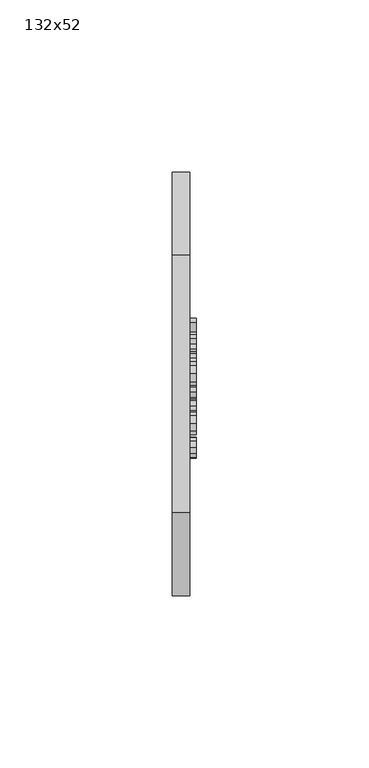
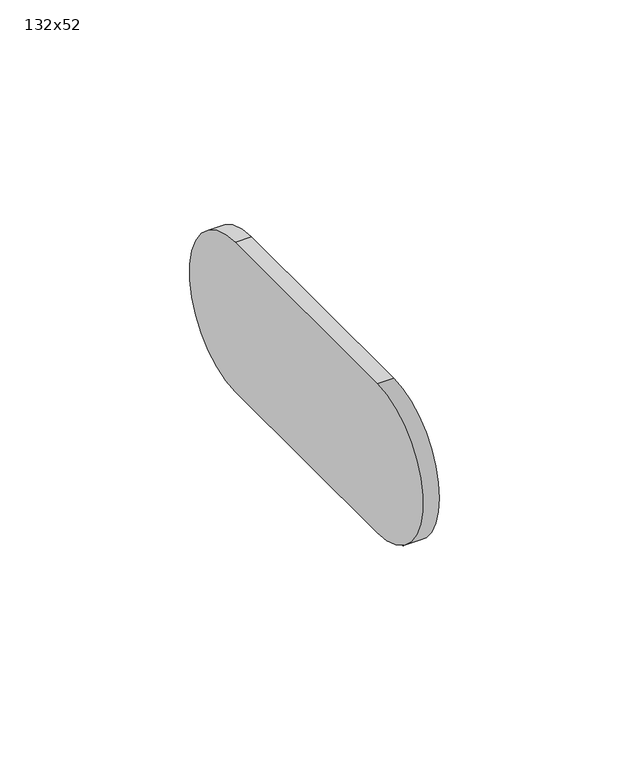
"""IFC4 building model written with IfcOpenShell, lengths in millimetres: duct fitting geometry, NLRS_57_DUF_UN_dummy cap oval_M&G : 132x52."""

import ifcopenshell
import ifcopenshell.guid

model = None  # the IFC model being written
_history = None  # IfcOwnerHistory: only IFC2X3 demands one
_inside = {}  # id of a spatial element -> (the spatial element, [elements in it])
_under = {}  # id of a project, library or spatial element -> (it, [spatial elements below it])
_declared = {}  # id of a project -> (the project, [libraries it declares])
_typed = {}  # id of a type object -> (the type object, [elements of that type])
_made_of = {}  # id of a material, layer set ... -> (it, [elements and type objects made of it])


def new_model(schema):
    """Start an empty IFC model of exactly this schema.

    Asked for "IFC4X3", IfcOpenShell would pick the latest addendum, in which some entities
    have other attributes; the version numbers below select the first issue.
    IFC2X3 requires an IfcOwnerHistory on every rooted entity: one is made here for all.
    """
    global model, _history
    if schema == "IFC4X3":
        model = ifcopenshell.file(schema_version=(4, 3, 0, 0))
    else:
        model = ifcopenshell.file(schema=schema)
    _inside.clear()
    _under.clear()
    _declared.clear()
    _typed.clear()
    _made_of.clear()
    _history = None
    if model.schema == "IFC2X3":
        org = make("IfcOrganization", Name="unknown")
        user = make(
            "IfcPersonAndOrganization",
            ThePerson=make("IfcPerson", FamilyName="unknown"),
            TheOrganization=org,
        )
        app = make(
            "IfcApplication",
            ApplicationDeveloper=org,
            Version="unknown",
            ApplicationFullName="unknown",
            ApplicationIdentifier="unknown",
        )
        _history = make(
            "IfcOwnerHistory",
            OwningUser=user,
            OwningApplication=app,
            ChangeAction="ADDED",
            CreationDate=0,
        )
    return model


def make(cls, **values):
    """One entity of the class cls with the attributes given. An attribute that is None is left unset."""
    return model.create_entity(
        cls, **{name: value for name, value in values.items() if value is not None}
    )


def rooted(cls, **values):
    """An entity with a GlobalId (a new one), such as an element, a storey or a relation."""
    return make(cls, GlobalId=ifcopenshell.guid.new(), OwnerHistory=_history, **values)


def si_unit(unit_type, name, prefix=None):
    """IfcSIUnit, for example si_unit("LENGTHUNIT", "METRE", prefix="MILLI")."""
    return make("IfcSIUnit", UnitType=unit_type, Prefix=prefix, Name=name)


def assignment(units):
    """IfcUnitAssignment: the units of a project."""
    return None if units is None else make("IfcUnitAssignment", Units=units)


def point(xyz):
    """IfcCartesianPoint."""
    return None if xyz is None else make("IfcCartesianPoint", Coordinates=xyz)


def direction(xyz):
    """IfcDirection."""
    return None if xyz is None else make("IfcDirection", DirectionRatios=xyz)


def frame(location, z_axis=None, x_axis=None):
    """IfcAxis2Placement3D, a coordinate frame: its origin and axes. An axis left out is left unset."""
    return make(
        "IfcAxis2Placement3D",
        Location=point(location),
        Axis=direction(z_axis),
        RefDirection=direction(x_axis),
    )


def frame_2d(location, x_axis=None):
    """IfcAxis2Placement2D, a coordinate frame in the plane: its origin and x axis."""
    return make(
        "IfcAxis2Placement2D", Location=point(location), RefDirection=direction(x_axis)
    )


def origin():
    """The frame at (0, 0, 0) with its axes left unset."""
    return frame((0.0, 0.0, 0.0))


def place(relative_to, where):
    """IfcLocalPlacement: puts the frame where relative to a parent placement (None: the world)."""
    return make(
        "IfcLocalPlacement", PlacementRelTo=relative_to, RelativePlacement=where
    )


def context(
    kind, dimensions, precision=None, world=None, true_north=None, identifier=None
):
    """IfcGeometricRepresentationContext, for example the 3D "Model" context."""
    return make(
        "IfcGeometricRepresentationContext",
        ContextIdentifier=identifier,
        ContextType=kind,
        CoordinateSpaceDimension=dimensions,
        Precision=precision,
        WorldCoordinateSystem=world,
        TrueNorth=true_north,
    )


def project(units=None, contexts=None):
    """IfcProject with its units and contexts."""
    return rooted(
        "IfcProject",
        Name="project",
        RepresentationContexts=contexts,
        UnitsInContext=assignment(units),
    )


def spatial(cls, under=None, at=None, **own):
    """A site, building, storey or space (cls), placed at a placement, below another one or the project."""
    s = rooted(cls, ObjectPlacement=at, **own)
    if under is not None:
        _under.setdefault(under.id(), (under, []))[1].append(s)
    return s


def polyline(points):
    """IfcPolyline through the points."""
    return make("IfcPolyline", Points=[point(p) for p in points])


def circle_curve(where, radius):
    """IfcCircle in the frame where."""
    return make("IfcCircle", Position=where, Radius=radius)


def trimmed(basis, trim1, trim2, sense, master):
    """IfcTrimmedCurve: the piece of a basis curve between two trims."""
    return make(
        "IfcTrimmedCurve",
        BasisCurve=basis,
        Trim1=trim1,
        Trim2=trim2,
        SenseAgreement=sense,
        MasterRepresentation=master,
    )


def segment(curve, same_sense, transition):
    """IfcCompositeCurveSegment."""
    return make(
        "IfcCompositeCurveSegment",
        Transition=transition,
        SameSense=same_sense,
        ParentCurve=curve,
    )


def composite_curve(segments, self_intersect=None):
    """IfcCompositeCurve: segments joined end to end."""
    return make("IfcCompositeCurve", Segments=segments, SelfIntersect=self_intersect)


def outline(outer, holes=None, kind="AREA"):
    """IfcArbitraryClosedProfileDef: a profile drawn as a closed curve; with holes, ...WithVoids."""
    if holes is None:
        return make("IfcArbitraryClosedProfileDef", ProfileType=kind, OuterCurve=outer)
    return make(
        "IfcArbitraryProfileDefWithVoids",
        ProfileType=kind,
        OuterCurve=outer,
        InnerCurves=holes,
    )


def extrude(swept, where, along, depth):
    """IfcExtrudedAreaSolid: the profile swept, set in the frame where, extruded along a direction by depth."""
    return make(
        "IfcExtrudedAreaSolid",
        SweptArea=swept,
        Position=where,
        ExtrudedDirection=direction(along),
        Depth=depth,
    )


def shape(context_of_items, identifier, shape_type, items):
    """IfcShapeRepresentation: the items that make up one representation, for example the "Body"."""
    return make(
        "IfcShapeRepresentation",
        ContextOfItems=context_of_items,
        RepresentationIdentifier=identifier,
        RepresentationType=shape_type,
        Items=items,
    )


def source(mapping_origin, context_of_items, identifier, shape_type, items):
    """IfcRepresentationMap: a shape defined once, which mapped items show again and again."""
    return make(
        "IfcRepresentationMap",
        MappingOrigin=mapping_origin,
        MappedRepresentation=shape(context_of_items, identifier, shape_type, items),
    )


def transform(
    local_origin,
    x_axis=None,
    y_axis=None,
    z_axis=None,
    scale=None,
    scale2=None,
    scale3=None,
    uniform=True,
):
    """IfcCartesianTransformationOperator3D, or its non-uniform kind. x_axis, y_axis, z_axis: its Axis1, 2, 3."""
    if uniform:
        return make(
            "IfcCartesianTransformationOperator3D",
            Axis1=direction(x_axis),
            Axis2=direction(y_axis),
            LocalOrigin=point(local_origin),
            Scale=scale,
            Axis3=direction(z_axis),
        )
    return make(
        "IfcCartesianTransformationOperator3DnonUniform",
        Axis1=direction(x_axis),
        Axis2=direction(y_axis),
        LocalOrigin=point(local_origin),
        Scale=scale,
        Axis3=direction(z_axis),
        Scale2=scale2,
        Scale3=scale3,
    )


def mapped(mapping_source, mapping_target):
    """IfcMappedItem: shows the shape of a source again, moved by a transform."""
    return make(
        "IfcMappedItem", MappingSource=mapping_source, MappingTarget=mapping_target
    )


def made_of(thing, what):
    """Note that an element or type object is made of a material, layer set ...; save() writes the relation."""
    if what is not None:
        _made_of.setdefault(what.id(), (what, []))[1].append(thing)
    return thing


def element(
    cls,
    number,
    at=None,
    inside=None,
    cuts=None,
    type_object=None,
    material=None,
    context=None,
    identifier="Body",
    shape_type=None,
    held_by="IfcProductDefinitionShape",
    body=None,
    shapes=None,
    **own,
):
    """One element of the class cls, such as IfcWall. Its Tag is "e" and its number.

    at: its placement. inside: the storey or other place that contains it. cuts: it is an
    opening in that element (IfcRelVoidsElement). A single representation is given by context,
    identifier, shape_type and body (its items); several are given by shapes. held_by: the class
    of the entity that holds the representations. save() writes the other relations.
    """
    e = rooted(cls, Tag="e%d" % number, ObjectPlacement=at, **own)
    if body is not None:
        shapes = [shape(context, identifier, shape_type, body)]
    if shapes is not None:
        e.Representation = make(held_by, Representations=shapes)
    if inside is not None:
        _inside.setdefault(inside.id(), (inside, []))[1].append(e)
    if cuts is not None:
        rooted(
            "IfcRelVoidsElement", RelatingBuildingElement=cuts, RelatedOpeningElement=e
        )
    if type_object is not None:
        _typed.setdefault(type_object.id(), (type_object, []))[1].append(e)
    return made_of(e, material)


def aggregate(whole, parts):
    """IfcRelAggregates: a whole, such as a stair, and the parts it consists of."""
    return rooted("IfcRelAggregates", RelatingObject=whole, RelatedObjects=parts)


def save(model, path):
    """Write the relations noted so far, then the file.

    IfcRelAggregates (storeys below a building ...), IfcRelContainedInSpatialStructure (elements
    in a storey), IfcRelDefinesByType, IfcRelAssociatesMaterial and IfcRelDeclares: one each for
    every whole, place, type object, material and project.
    """
    for whole, parts in _under.values():
        aggregate(whole, parts)
    for where, things in _inside.values():
        rooted(
            "IfcRelContainedInSpatialStructure",
            RelatedElements=things,
            RelatingStructure=where,
        )
    for kind, things in _typed.values():
        rooted("IfcRelDefinesByType", RelatedObjects=things, RelatingType=kind)
    for what, things in _made_of.values():
        rooted("IfcRelAssociatesMaterial", RelatedObjects=things, RelatingMaterial=what)
    for by, libraries in _declared.values():
        rooted("IfcRelDeclares", RelatingContext=by, RelatedDefinitions=libraries)
    model.write(path)


def duct_fitting_132x52_95183a23(model_context):
    return source(origin(), model_context, "Body", "SweptSolid", [
        extrude(outline(composite_curve([segment(trimmed(circle_curve(frame_2d((37.5, 0.0)), 24.0), [point((37.5, 24.0))], [point((37.5, -24.0))], False, "CARTESIAN"), True, "CONTINUOUS"), segment(polyline([(37.5, -24.0), (-37.5, -24.0)]), True, "CONTINUOUS"), segment(trimmed(circle_curve(frame_2d((-37.5, 0.0)), 24.0), [point((-37.5, -24.0))], [point((-37.5, 24.0))], False, "CARTESIAN"), True, "CONTINUOUS"), segment(polyline([(-37.5, 24.0), (37.5, 24.0)]), True, "CONTINUOUS")], self_intersect=False)), frame((0.0, 0.0, 0.0), z_axis=(1.0, 0.0, 0.0), x_axis=(0.0, 1.0, 0.0)), (0.0, 0.0, 1.0), 5.0),
        extrude(outline(polyline([(-16.7324101, 3.986925), (-15.5016409, 3.8330789), (-16.4896216, 1.9112039), (-18.4415447, 1.2176943), (-20.7744774, 2.1852423), (-21.655487, 4.9604827), (-21.2792851, 7.0049539), (-20.1326505, 8.3186558), (-18.4583716, 8.7561558), (-16.5869774, 8.1551943), (-15.655487, 6.4484635), (-16.8862562, 6.2946173), (-17.4571697, 7.2164923), (-18.4487562, 7.5253866), (-19.8754389, 6.9172135), (-20.4247178, 4.9941366), (-19.8874582, 3.0530308), (-18.4824101, 2.4484635), (-17.3225543, 2.8258673), (-16.7324101, 3.986925)])), frame((5.0, 0.0, 0.0), z_axis=(1.0, 0.0, 0.0), x_axis=(0.0, 1.0, 0.0)), (0.0, 0.0, 1.0), 2.0),
        extrude(outline(polyline([(-14.7324101, 4.986925), (-13.6675062, 7.955675), (-11.499237, 8.7561558), (-9.1735159, 7.7813962), (-8.2708716, 5.0878866), (-8.6699101, 2.8979827), (-9.8321697, 1.6588), (-11.499237, 1.2176943), (-13.8393812, 2.1888481), (-14.7324101, 4.986925)]), holes=[polyline([(-13.5016409, 4.9893289), (-12.9319293, 3.0818769), (-11.499237, 2.4484635), (-10.0713524, 3.0854827), (-9.5016409, 5.0277904), (-10.0749582, 6.8919731), (-11.499237, 7.5253866), (-12.9319293, 6.8943769), (-13.5016409, 4.9893289)])]), frame((5.0, 0.0, 0.0), z_axis=(1.0, 0.0, 0.0), x_axis=(0.0, 1.0, 0.0)), (0.0, 0.0, 1.0), 2.0),
        extrude(outline(polyline([(-5.1122178, 1.3715404), (-7.655487, 8.6023096), (-6.3526024, 8.6023096), (-4.811737, 4.2705789), (-4.3477947, 2.8138481), (-3.8934678, 4.1888481), (-2.342987, 8.6023096), (-1.0401024, 8.6023096), (-3.5521216, 1.3715404), (-5.1122178, 1.3715404)])), frame((5.0, 0.0, 0.0), z_axis=(1.0, 0.0, 0.0), x_axis=(0.0, 1.0, 0.0)), (0.0, 0.0, 1.0), 2.0),
        extrude(outline(polyline([(5.0993207, 3.5253866), (6.3060515, 3.3715404), (5.1774457, 1.7825981), (3.0752822, 1.2176943), (0.5199938, 2.1924539), (-0.4247178, 4.9268289), (0.5296091, 7.7513481), (3.0055707, 8.7561558), (5.4106188, 7.7537519), (6.344513, 4.9340404), (0.8060515, 4.6023096), (1.5139841, 3.0037519), (3.0993207, 2.4484635), (4.3060515, 2.705675), (5.0993207, 3.5253866)]), holes=[polyline([(0.8060515, 5.8330789), (5.1137438, 5.8330789), (4.6209553, 6.9484635), (3.000763, 7.5253866), (1.485138, 7.06505), (0.8060515, 5.8330789)])]), frame((5.0, 0.0, 0.0), z_axis=(1.0, 0.0, 0.0), x_axis=(0.0, 1.0, 0.0)), (0.0, 0.0, 1.0), 2.0),
        extrude(outline(polyline([(7.5752822, 1.3715404), (7.5752822, 8.6023096), (8.6522053, 8.6023096), (8.6522053, 7.5325981), (9.4166284, 8.518175), (10.1858591, 8.7561558), (11.4214361, 8.3763481), (11.0103784, 7.2729827), (10.1449938, 7.5253866), (9.0055707, 6.6095212), (8.8060515, 5.1720212), (8.8060515, 1.3715404), (7.5752822, 1.3715404)])), frame((5.0, 0.0, 0.0), z_axis=(1.0, 0.0, 0.0), x_axis=(0.0, 1.0, 0.0)), (0.0, 0.0, 1.0), 2.0),
        extrude(outline(polyline([(15.1137438, 1.3715404), (17.8829745, 11.2176943), (18.9935515, 11.2176943), (16.2243207, 1.3715404), (15.1137438, 1.3715404)])), frame((5.0, 0.0, 0.0), z_axis=(1.0, 0.0, 0.0), x_axis=(0.0, 1.0, 0.0)), (0.0, 0.0, 1.0), 2.0),
        extrude(outline(polyline([(-16.7324101, -8.1669211), (-15.5016409, -8.3207673), (-16.4896216, -10.2426423), (-18.4415447, -10.9361519), (-20.7744774, -9.9686038), (-21.655487, -7.1933634), (-21.2792851, -5.1488923), (-20.1326505, -3.8351904), (-18.4583716, -3.3976904), (-16.5869774, -3.9986519), (-15.655487, -5.7053827), (-16.8862562, -5.8592288), (-17.4571697, -4.9373538), (-18.4487562, -4.6284596), (-19.8754389, -5.2366327), (-20.4247178, -7.1597096), (-19.8874582, -9.1008154), (-18.4824101, -9.7053827), (-17.3225543, -9.3279788), (-16.7324101, -8.1669211)])), frame((5.0, 0.0, 0.0), z_axis=(1.0, 0.0, 0.0), x_axis=(0.0, 1.0, 0.0)), (0.0, 0.0, 1.0), 2.0),
        extrude(outline(polyline([(7.0, -13.1939485), (7.0, -14.4247178), (5.0, -14.4247178), (5.0, -13.1939485), (7.0, -13.1939485)])), frame((0.0, 0.0, -10.7823057), z_axis=(0.0, 0.0, 1.0), x_axis=(1.0, 0.0, 0.0)), (0.0, 0.0, 1.0), 9.8461538),
        extrude(outline(polyline([(-11.655487, -7.1669211), (-10.5905832, -4.1981711), (-8.4223139, -3.3976904), (-6.0965928, -4.37245), (-5.1939485, -7.0659596), (-5.592987, -9.2558634), (-6.7552466, -10.4950461), (-8.4223139, -10.9361519), (-10.7624582, -9.9649981), (-11.655487, -7.1669211)]), holes=[polyline([(-10.4247178, -7.1645173), (-9.8550062, -9.0719692), (-8.4223139, -9.7053827), (-6.9944293, -9.0683634), (-6.4247178, -7.1260557), (-6.9980351, -5.2618731), (-8.4223139, -4.6284596), (-9.8550062, -5.2594692), (-10.4247178, -7.1645173)])]), frame((5.0, 0.0, 0.0), z_axis=(1.0, 0.0, 0.0), x_axis=(0.0, 1.0, 0.0)), (0.0, 0.0, 1.0), 2.0),
        extrude(outline(polyline([(-4.2708716, -8.6284596), (-3.0401024, -8.4746134), (-2.4703909, -9.388075), (-1.1651024, -9.7053827), (0.0897053, -9.4145173), (0.4983591, -8.731825), (-1.1795255, -7.8279788), (-3.0328909, -7.2258154), (-3.8417851, -6.5226904), (-4.1170255, -5.5299019), (-3.8958716, -4.6128346), (-3.2925062, -3.9121134), (-2.5100543, -3.5479307), (-1.4511601, -3.3976904), (0.0464361, -3.6392769), (0.9983591, -4.2931231), (1.4214361, -5.3976904), (0.1906668, -5.5515365), (-0.2720735, -4.87245), (-1.3550062, -4.6284596), (-2.5328909, -4.8616327), (-1.2203909, -6.2967288), (0.5860995, -6.8760557), (1.4250418, -7.5323057), (1.7291284, -8.6020173), (1.3721572, -9.7799019), (0.3421091, -10.6344692), (-1.1819293, -10.9361519), (-3.3285639, -10.3544211), (-4.2708716, -8.6284596)])), frame((5.0, 0.0, 0.0), z_axis=(1.0, 0.0, 0.0), x_axis=(0.0, 1.0, 0.0)), (0.0, 0.0, 1.0), 2.0),
        extrude(outline(polyline([(8.1762438, -8.6284596), (9.3829745, -8.7823057), (8.2543688, -10.3712481), (6.1522053, -10.9361519), (3.5969168, -9.9613923), (2.6522053, -7.2270173), (3.6065322, -4.4024981), (6.0824938, -3.3976904), (8.4875418, -4.4000942), (9.4214361, -7.2198057), (3.8829745, -7.5515365), (4.5909072, -9.1500942), (6.1762438, -9.7053827), (7.3829745, -9.4481711), (8.1762438, -8.6284596)]), holes=[polyline([(3.8829745, -6.3207673), (8.1906668, -6.3207673), (7.6978784, -5.2053827), (6.0776861, -4.6284596), (4.5620611, -5.0887961), (3.8829745, -6.3207673)])]), frame((5.0, 0.0, 0.0), z_axis=(1.0, 0.0, 0.0), x_axis=(0.0, 1.0, 0.0)), (0.0, 0.0, 1.0), 2.0),
        extrude(outline(polyline([(15.1137438, -10.7823057), (15.1137438, -9.6212481), (13.1738399, -10.9361519), (11.6498015, -10.4601904), (10.5728784, -9.1320654), (10.1906668, -7.1741327), (10.5428303, -5.2149981), (11.5981188, -3.8664404), (13.1690322, -3.3976904), (14.3036476, -3.7330269), (15.1137438, -4.6044211), (15.1137438, -0.9361519), (16.344513, -0.9361519), (16.344513, -10.7823057), (15.1137438, -10.7823057)]), holes=[polyline([(11.4214361, -7.169325), (11.9767245, -9.0743731), (13.2868207, -9.7053827), (14.5812918, -9.1032192), (15.1137438, -7.263075), (14.5716765, -5.2654788), (13.2363399, -4.6284596), (11.9406668, -5.2402384), (11.4214361, -7.169325)])]), frame((5.0, 0.0, 0.0), z_axis=(1.0, 0.0, 0.0), x_axis=(0.0, 1.0, 0.0)), (0.0, 0.0, 1.0), 2.0),
    ])


if __name__ == "__main__":
    model = new_model("IFC4")
    model_context = context("Model", 3, world=origin())
    ifc_project = project(units=[si_unit("LENGTHUNIT", "METRE", prefix="MILLI")], contexts=[model_context])
    site = spatial("IfcSite", under=ifc_project)
    building = spatial("IfcBuilding", under=site)
    placement = place(None, origin())
    duct_fitting_132x52_shape = duct_fitting_132x52_95183a23(model_context)
    element("IfcDuctFitting", 1, ObjectType="NLRS_57_DUF_UN_dummy cap oval_M&G : 132x52", at=placement, inside=building, context=model_context, shape_type="MappedRepresentation", body=[
        mapped(duct_fitting_132x52_shape, transform((0.0, 0.0, 0.0), x_axis=(1.0, 0.0, 0.0), y_axis=(0.0, 1.0, 0.0), z_axis=(0.0, 0.0, 1.0))),
    ])
    save(model, "model.ifc")
